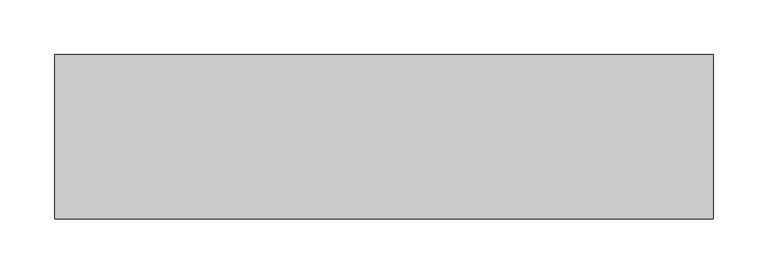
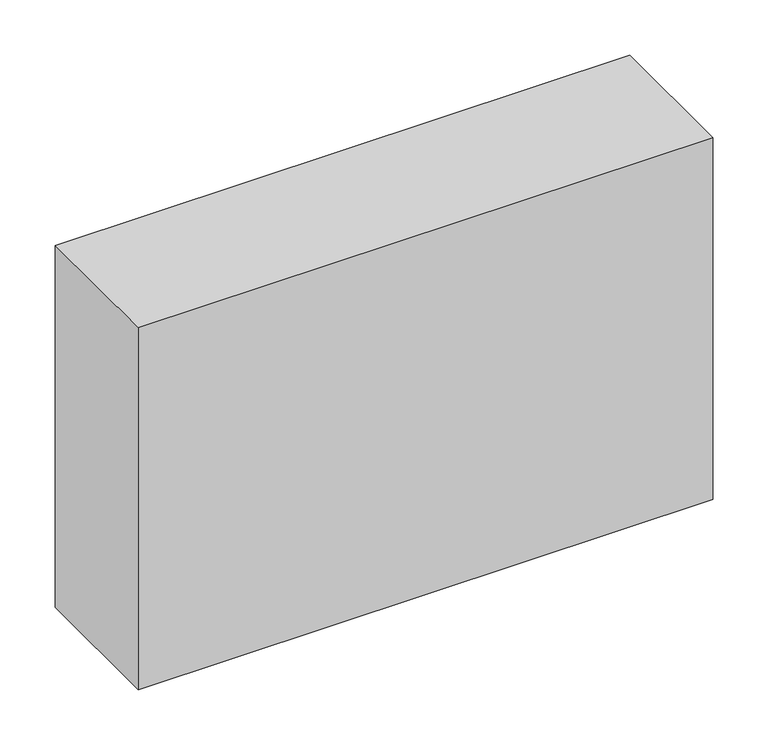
"""IFC4 building model written with IfcOpenShell, lengths in millimetres: proxy geometry, Módulo de Vedação de Concreto Celular - Celucon : MVCC 15x40x60cm (L x A x C)."""

from ifc_helpers import new_model, si_unit, origin, origin_with_axes, place, context, project, spatial, polyline, outline, extrude, source, transform, mapped, element, save


def generic_models_fad3014b(model_context):
    return source(origin(), model_context, "Body", "SweptSolid", [
        extrude(outline(polyline([(300.0, 75.0), (300.0, -75.0), (-300.0, -75.0), (-300.0, 75.0), (300.0, 75.0)])), origin_with_axes(), (0.0, 0.0, 1.0), 400.0),
    ])


if __name__ == "__main__":
    model = new_model("IFC4")
    model_context = context("Model", 3, world=origin())
    ifc_project = project(units=[si_unit("LENGTHUNIT", "METRE", prefix="MILLI")], contexts=[model_context])
    site = spatial("IfcSite", under=ifc_project)
    building = spatial("IfcBuilding", under=site)
    placement = place(None, origin())
    generic_models_shape = generic_models_fad3014b(model_context)
    element("IfcBuildingElementProxy", 1, Name="Módulo de Vedação de Concreto Celular - Celucon : MVCC 15x40x60cm (L x A x C)", ObjectType="Módulo de Vedação de Concreto Celular - Celucon : MVCC 15x40x60cm (L x A x C)", at=placement, inside=building, context=model_context, shape_type="MappedRepresentation", body=[
        mapped(generic_models_shape, transform((0.0, 0.0, 0.0), x_axis=(1.0, 0.0, 0.0), y_axis=(0.0, 1.0, 0.0), z_axis=(0.0, 0.0, 1.0))),
    ])
    save(model, "model.ifc")
